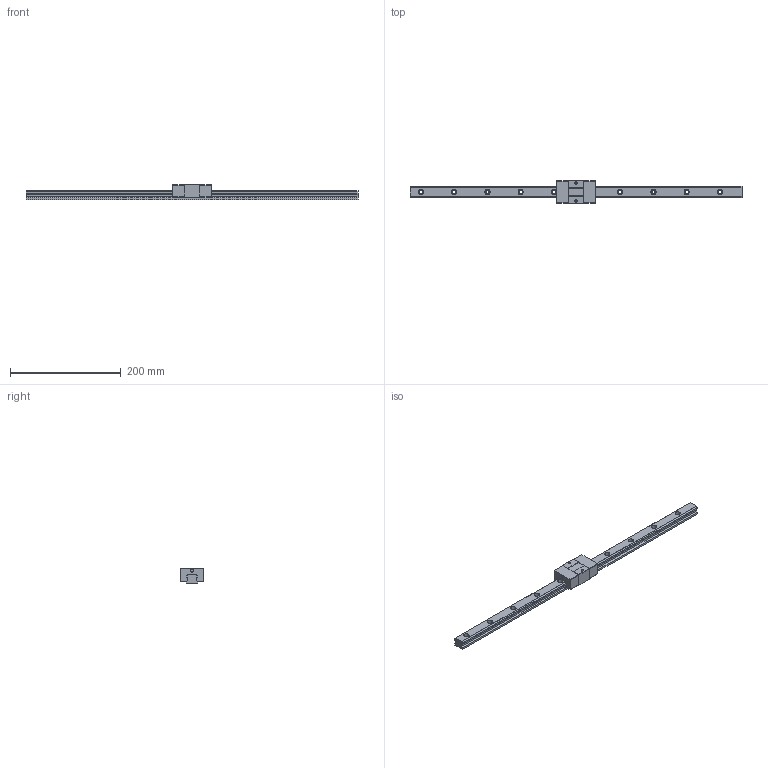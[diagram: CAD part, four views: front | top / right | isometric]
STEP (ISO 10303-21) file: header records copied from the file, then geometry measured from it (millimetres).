
FILE_DESCRIPTION (( 'STEP AP203' ), '1' );
FILE_NAME ('TRS20VS-WZ-§ï.STEP', '2023-08-31T06:58:51', ( '' ), ( '' ), 'SwSTEP 2.0', 'SolidWorks 2022', '' );
FILE_SCHEMA (( 'CONFIG_CONTROL_DESIGN' ));
Length unit declared in the file: millimetre
Products named in the file (1): TRS20VS-WZ-改
Bounding box: 600 x 42 x 28 mm (x, y, z)
Volume: 220359.2 mm3; surface area: 58475.2 mm2
Topology: 1 solids, 1 shells, 171 faces, 460 edges, 304 vertices
Faces by surface type: plane 87, cylinder 84
Entity records: 5515 total; most frequent: DIRECTION 972, CARTESIAN_POINT 936, ORIENTED_EDGE 920, EDGE_CURVE 460, AXIS2_PLACEMENT_3D 340, VERTEX_POINT 304, LINE 292, VECTOR 292
